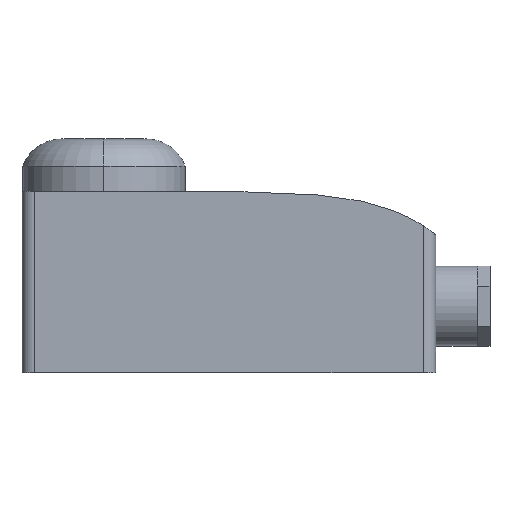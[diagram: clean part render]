
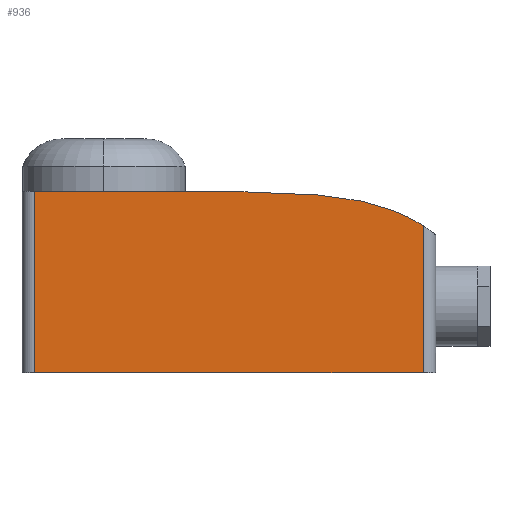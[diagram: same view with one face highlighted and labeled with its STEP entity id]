
A CAD part, left-side view. The second image highlights one B-rep face of the part: STEP entity #936.
In plain terms, the highlighted planar face has unit normal (-1, 0, 0).
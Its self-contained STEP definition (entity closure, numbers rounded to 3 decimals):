
#12 = CARTESIAN_POINT ( 'NONE',  ( -19.5, 46.5, 0. ) ) ;
#63 = CARTESIAN_POINT ( 'NONE',  ( -19.5, 46.5, 43.5 ) ) ;
#73 = DIRECTION ( 'NONE',  ( 0., 0., -1. ) ) ;
#81 = EDGE_CURVE ( 'NONE', #196, #434, #934, .T. ) ;
#85 = CARTESIAN_POINT ( 'NONE',  ( -19.5, 46.5, 43.5 ) ) ;
#116 = ORIENTED_EDGE ( 'NONE', *, *, #81, .F. ) ;
#134 = CARTESIAN_POINT ( 'NONE',  ( -19.5, 0., 43.5 ) ) ;
#136 = VECTOR ( 'NONE', #219, 1000. ) ;
#173 = ORIENTED_EDGE ( 'NONE', *, *, #232, .F. ) ;
#184 = ORIENTED_EDGE ( 'NONE', *, *, #320, .T. ) ;
#196 = VERTEX_POINT ( 'NONE', #63 ) ;
#198 = VECTOR ( 'NONE', #476, 1000. ) ;
#219 = DIRECTION ( 'NONE',  ( 0., 0., -1. ) ) ;
#232 = EDGE_CURVE ( 'NONE', #548, #239, #591, .T. ) ;
#239 = VERTEX_POINT ( 'NONE', #730 ) ;
#246 = PLANE ( 'NONE',  #263 ) ;
#263 = AXIS2_PLACEMENT_3D ( 'NONE', #85, #541, #450 ) ;
#270 = VERTEX_POINT ( 'NONE', #12 ) ;
#277 = CARTESIAN_POINT ( 'NONE',  ( -19.5, -33.09, 43.995 ) ) ;
#320 = EDGE_CURVE ( 'NONE', #196, #270, #371, .T. ) ;
#371 = LINE ( 'NONE', #507, #842 ) ;
#434 = VERTEX_POINT ( 'NONE', #891 ) ;
#442 = CARTESIAN_POINT ( 'NONE',  ( -19.5, -46.5, 43.5 ) ) ;
#450 = DIRECTION ( 'NONE',  ( 0., 1., 0. ) ) ;
#476 = DIRECTION ( 'NONE',  ( 0., -1., 0. ) ) ;
#484 = CARTESIAN_POINT ( 'NONE',  ( -19.5, 46.5, 0. ) ) ;
#507 = CARTESIAN_POINT ( 'NONE',  ( -19.5, 46.5, 43.5 ) ) ;
#532 = EDGE_CURVE ( 'NONE', #270, #239, #550, .T. ) ;
#533 = ORIENTED_EDGE ( 'NONE', *, *, #605, .F. ) ;
#539 = B_SPLINE_CURVE_WITH_KNOTS ( 'NONE', 3,
 ( #134, #864, #277, #711 ),
 .UNSPECIFIED., .F., .F.,
 ( 4, 4 ),
 ( 0., 0.929 ),
 .UNSPECIFIED. ) ;
#541 = DIRECTION ( 'NONE',  ( 1., 0., 0. ) ) ;
#548 = VERTEX_POINT ( 'NONE', #618 ) ;
#549 = ORIENTED_EDGE ( 'NONE', *, *, #532, .T. ) ;
#550 = LINE ( 'NONE', #484, #198 ) ;
#591 = LINE ( 'NONE', #442, #136 ) ;
#605 = EDGE_CURVE ( 'NONE', #434, #548, #539, .T. ) ;
#618 = CARTESIAN_POINT ( 'NONE',  ( -19.5, -46.5, 35.244 ) ) ;
#632 = CARTESIAN_POINT ( 'NONE',  ( -19.5, 46.5, 43.5 ) ) ;
#711 = CARTESIAN_POINT ( 'NONE',  ( -19.5, -46.5, 35.244 ) ) ;
#730 = CARTESIAN_POINT ( 'NONE',  ( -19.5, -46.5, 0. ) ) ;
#740 = FACE_OUTER_BOUND ( 'NONE', #773, .T. ) ;
#773 = EDGE_LOOP ( 'NONE', ( #173, #533, #116, #184, #549 ) ) ;
#842 = VECTOR ( 'NONE', #73, 1000. ) ;
#864 = CARTESIAN_POINT ( 'NONE',  ( -19.5, -15.316, 42.705 ) ) ;
#891 = CARTESIAN_POINT ( 'NONE',  ( -19.5, 0., 43.5 ) ) ;
#925 = DIRECTION ( 'NONE',  ( 0., -1., 0. ) ) ;
#933 = VECTOR ( 'NONE', #925, 1000. ) ;
#934 = LINE ( 'NONE', #632, #933 ) ;
#936 = ADVANCED_FACE ( 'NONE', ( #740 ), #246, .F. ) ;
